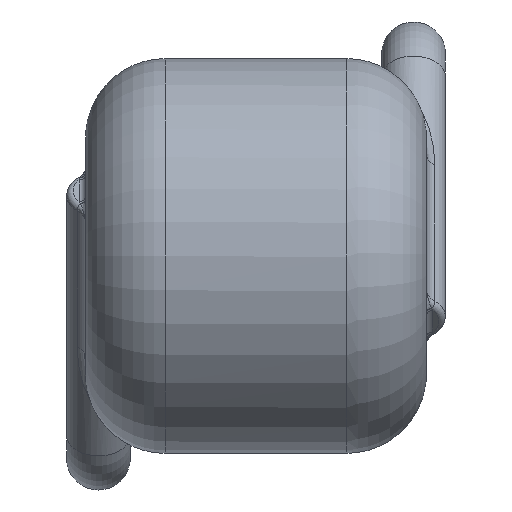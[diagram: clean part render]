
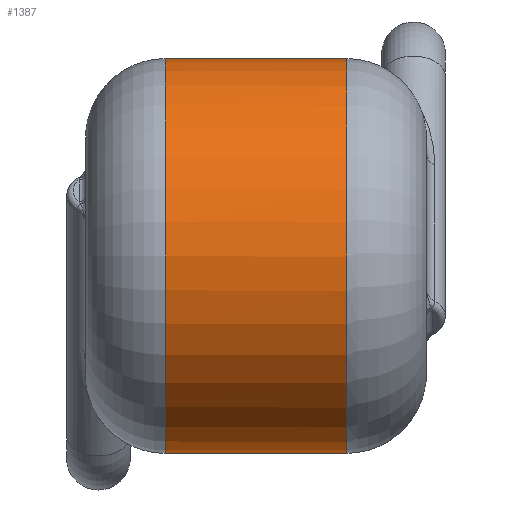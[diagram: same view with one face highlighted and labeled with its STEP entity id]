
A CAD part, left-side view. The second image highlights one B-rep face of the part: STEP entity #1387.
In plain terms, the highlighted cylindrical face has radius 6.2 mm (diameter 12.4 mm), a full revolution.
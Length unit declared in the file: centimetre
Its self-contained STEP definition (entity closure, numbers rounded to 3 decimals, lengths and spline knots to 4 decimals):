
#956=CARTESIAN_POINT('',(0.62,0.74,0.));
#957=VERTEX_POINT('',#956);
#958=CARTESIAN_POINT('',(0.0,0.74,0.0));
#959=DIRECTION('',(0.0,1.0,0.0));
#960=DIRECTION('',(-1.0,0.0,0.0));
#961=AXIS2_PLACEMENT_3D('',#958,#959,#960);
#962=CIRCLE('',#961,0.62);
#963=EDGE_CURVE('',#957,#957,#962,.T.);
#1278=CARTESIAN_POINT('',(0.62,0.169,0.));
#1279=VERTEX_POINT('',#1278);
#1280=CARTESIAN_POINT('',(0.0,0.169,0.0));
#1281=DIRECTION('',(0.0,-1.0,0.0));
#1282=DIRECTION('',(-1.0,0.0,0.0));
#1283=AXIS2_PLACEMENT_3D('',#1280,#1281,#1282);
#1284=CIRCLE('',#1283,0.62);
#1285=EDGE_CURVE('',#1279,#1279,#1284,.T.);
#1376=CARTESIAN_POINT('',(0.0,0.4545,0.0));
#1377=DIRECTION('',(0.0,1.0,0.0));
#1378=DIRECTION('',(-1.0,0.0,0.0));
#1379=AXIS2_PLACEMENT_3D('',#1376,#1377,#1378);
#1380=CYLINDRICAL_SURFACE('',#1379,0.62);
#1381=ORIENTED_EDGE('',*,*,#963,.F.);
#1382=EDGE_LOOP('',(#1381));
#1383=FACE_OUTER_BOUND('',#1382,.T.);
#1384=ORIENTED_EDGE('',*,*,#1285,.F.);
#1385=EDGE_LOOP('',(#1384));
#1386=FACE_BOUND('',#1385,.T.);
#1387=ADVANCED_FACE('',(#1383,#1386),#1380,.T.);
